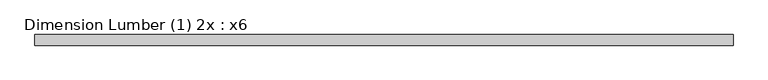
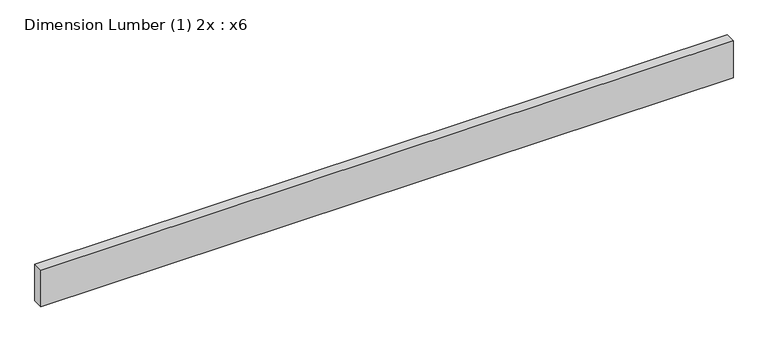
"""IFC4 building model written with IfcOpenShell, lengths in millimetres: beam geometry, Dimension Lumber (1) 2x : x6."""

from ifc_helpers import new_model, si_unit, frame, origin, place, context, project, spatial, polyline, outline, extrude, source, transform, mapped, element, save


def dimension_lumber_1_2x_x6_41abae22(model_context):
    return source(origin(), model_context, "Body", "SweptSolid", [
        extrude(outline(polyline([(1249.9848, 19.05), (1249.9848, -19.05), (-1249.9848, -19.05), (-1249.9848, 19.05), (1249.9848, 19.05)])), frame((0.0, 0.0, -69.85), z_axis=(0.0, 0.0, 1.0), x_axis=(1.0, 0.0, 0.0)), (0.0, 0.0, 1.0), 139.7),
    ])


if __name__ == "__main__":
    model = new_model("IFC4")
    model_context = context("Model", 3, world=origin())
    ifc_project = project(units=[si_unit("LENGTHUNIT", "METRE", prefix="MILLI")], contexts=[model_context])
    site = spatial("IfcSite", under=ifc_project)
    building = spatial("IfcBuilding", under=site)
    placement = place(None, origin())
    dimension_lumber_1_2x_x6_shape = dimension_lumber_1_2x_x6_41abae22(model_context)
    element("IfcBeam", 1, ObjectType="Dimension Lumber (1) 2x : x6", at=placement, inside=building, context=model_context, shape_type="MappedRepresentation", body=[
        mapped(dimension_lumber_1_2x_x6_shape, transform((0.0, 0.0, 0.0), x_axis=(1.0, 0.0, 0.0), y_axis=(0.0, 1.0, 0.0), z_axis=(0.0, 0.0, 1.0))),
    ])
    save(model, "model.ifc")
